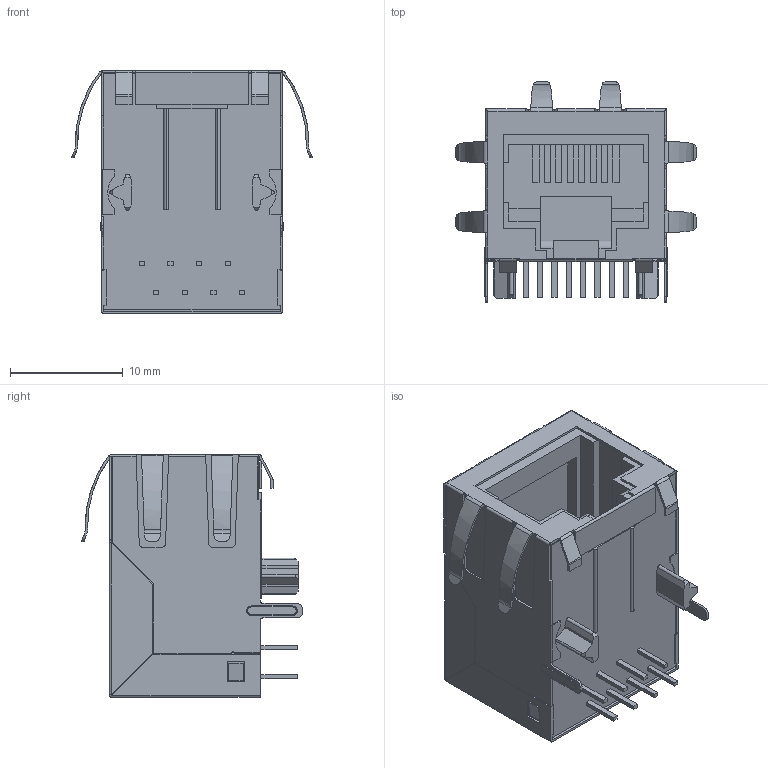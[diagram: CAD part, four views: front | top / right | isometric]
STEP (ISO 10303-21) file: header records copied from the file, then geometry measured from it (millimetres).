
FILE_DESCRIPTION (( 'STEP AP214' ), '1' );
FILE_NAME ('J0026D21NL_3D.STEP', '2017-06-29T07:50:11', ( '' ), ( '' ), 'SwSTEP 2.0', 'SolidWorks 2015', '' );
FILE_SCHEMA (( 'AUTOMOTIVE_DESIGN' ));
Length unit declared in the file: millimetre
Products named in the file (1): J0026D21NL_3D
Bounding box: 21.38 x 19.59 x 21.54 mm (x, y, z)
Volume: 1779 mm3; surface area: 3836.1 mm2
Topology: 1 solids, 1 shells, 540 faces, 1525 edges, 984 vertices
Faces by surface type: plane 392, cylinder 136, bspline 12
Entity records: 23125 total; most frequent: CARTESIAN_POINT 3907, ORIENTED_EDGE 3050, DIRECTION 2600, EDGE_CURVE 1525, LINE 1218, VECTOR 1218, VERTEX_POINT 984, AXIS2_PLACEMENT_3D 691
